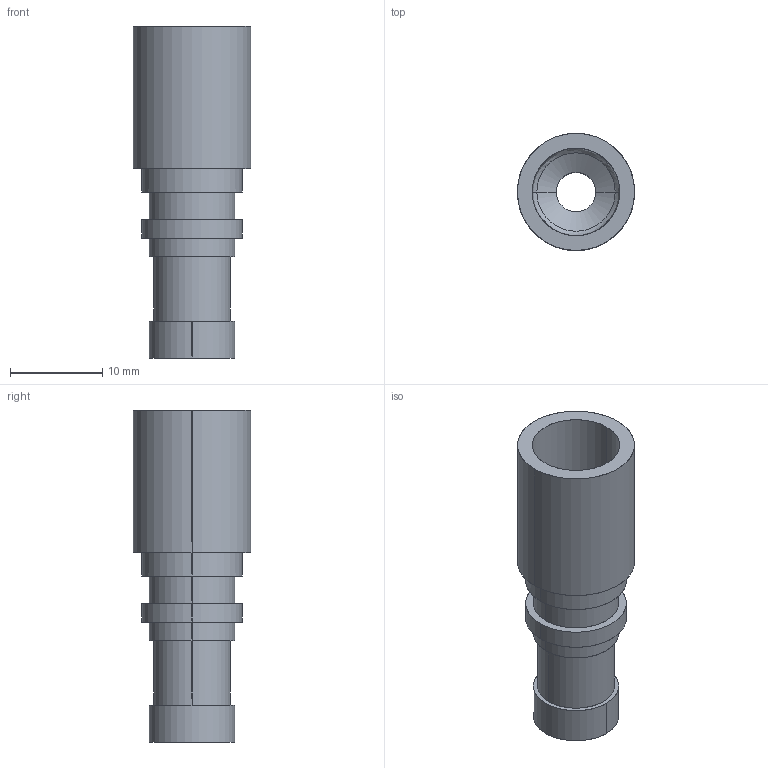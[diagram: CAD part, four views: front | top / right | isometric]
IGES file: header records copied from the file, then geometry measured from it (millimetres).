
Start section: SolidWorks IGES file using analytic representation for surfaces
Global section: file name: 6.3^70-仩R12.7-PH.IGS,; native system: SolidWorks 2012; preprocessor: SolidWorks 2012; author: harada; date: 130902.115459; units: millimetre
Bounding box: 12.7 x 12.7 x 36 mm (x, y, z)
Surface area: 2164.1 mm2 (no closed solid volume)
Topology: 0 solids, 0 shells, 33 faces, 676 edges, 676 vertices
Faces by surface type: revolution 22, bspline 11
